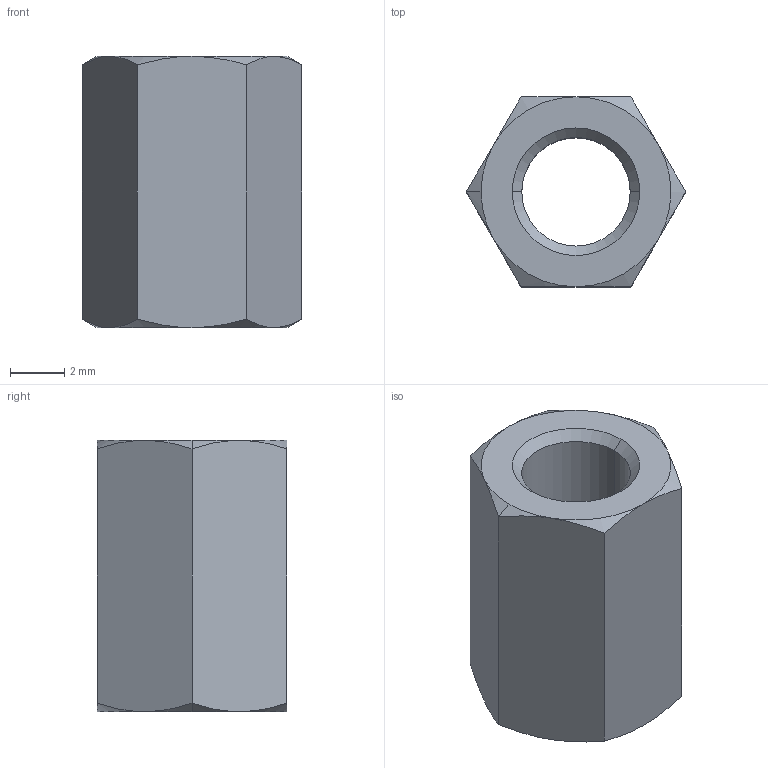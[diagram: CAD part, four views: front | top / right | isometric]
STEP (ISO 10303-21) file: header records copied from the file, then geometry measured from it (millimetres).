
FILE_DESCRIPTION (( 'STEP AP203' ), '1' );
FILE_NAME ('N0503.040-010-NP.step', '2025-02-27T14:42:22', ( '' ), ( '' ), 'SwSTEP 2.0', 'SolidWorks 2019', '' );
FILE_SCHEMA (( 'CONFIG_CONTROL_DESIGN' ));
Length unit declared in the file: millimetre
Products named in the file (1): N0503.040-010-NP
Bounding box: 8.08 x 7 x 10 mm (x, y, z)
Volume: 296.3 mm3; surface area: 419.1 mm2
Topology: 1 solids, 1 shells, 28 faces, 60 edges, 34 vertices
Faces by surface type: cone 18, plane 8, cylinder 2
Entity records: 879 total; most frequent: CARTESIAN_POINT 227, ORIENTED_EDGE 120, DIRECTION 116, EDGE_CURVE 60, AXIS2_PLACEMENT_3D 51, VERTEX_POINT 34, EDGE_LOOP 30, ADVANCED_FACE 28
